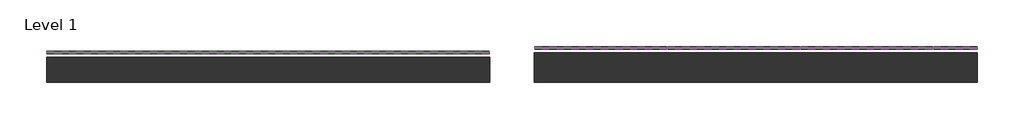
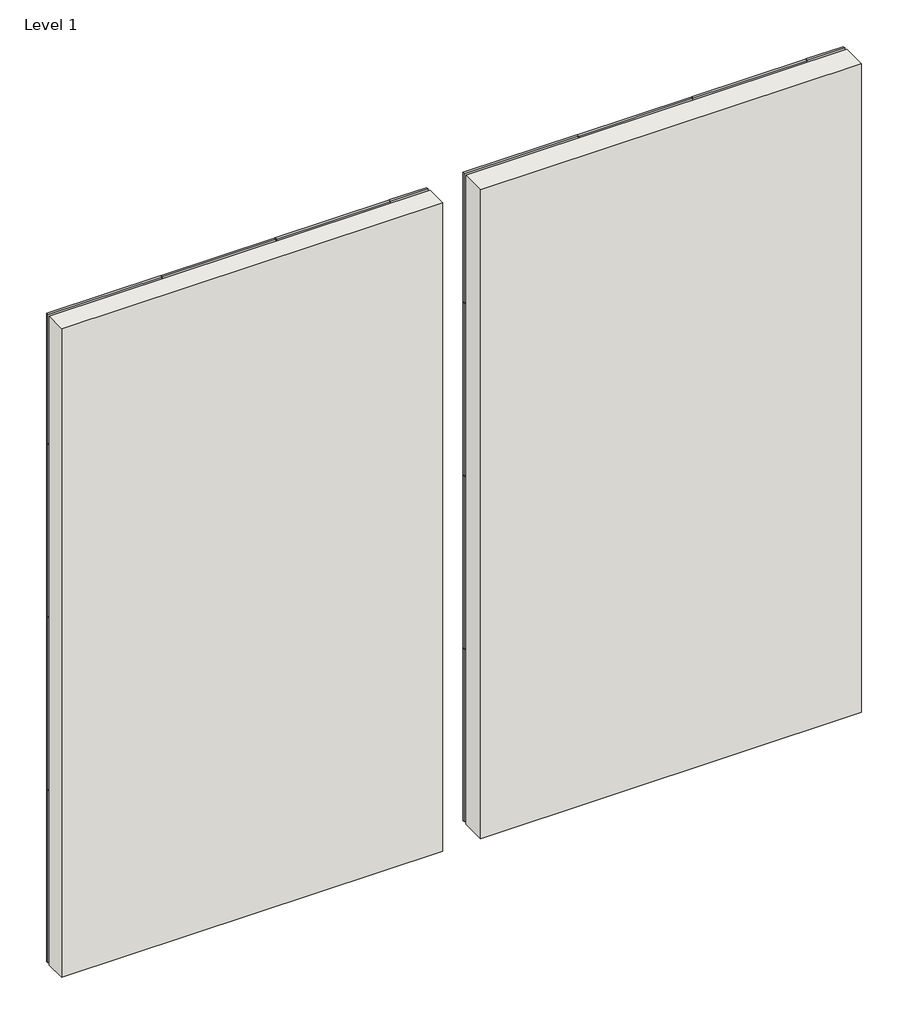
# One storey, incomplete: 32 plates, 2 walls.
"""IFC4 building model written with IfcOpenShell, lengths in millimetres."""

from ifc_helpers import new_model, si_unit, origin, origin_with_axes, place, context, project, spatial, polyline, outline, extrude, transform, mapped, element, save
from components import kws_generic_panel_kws_generic_panel_d79843ba, kws_generic_panel_kws_generic_panel_253ea42e, kws_generic_panel_kws_generic_panel_c40079bc, kws_generic_panel_kws_generic_panel_fbc156a4

model = new_model("IFC4")

# Units and contexts
model_context = context("Model", 3, world=origin())
ifc_project = project(units=[si_unit("LENGTHUNIT", "METRE", prefix="MILLI")], contexts=[model_context])

# Site, building, storey
site = spatial("IfcSite", under=ifc_project)
building = spatial("IfcBuilding", under=site)
storey = spatial("IfcBuildingStorey", under=building, Name="Level 1", Elevation=0.0)

# Plates
placement = place(None, origin())
kws_generic_panel_kws_generic_panel_shape = kws_generic_panel_kws_generic_panel_d79843ba(model_context)
element("IfcPlate", 1, ObjectType="KWS_Generic-Panel : KWS_Generic-Panel", at=placement, inside=storey, context=model_context, shape_type="MappedRepresentation", body=[
    mapped(kws_generic_panel_kws_generic_panel_shape, transform((2093.9764741, 7373.7586092, 0.0), x_axis=(1.0, 0.0, 0.0), y_axis=(0.0, 1.0, 0.0), z_axis=(0.0, 0.0, 1.0))),
])
element("IfcPlate", 2, ObjectType="KWS_Generic-Panel : KWS_Generic-Panel", at=placement, inside=storey, context=model_context, shape_type="MappedRepresentation", body=[
    mapped(kws_generic_panel_kws_generic_panel_shape, transform((3617.9764743, 7373.7586092, 0.0), x_axis=(1.0, 0.0, 0.0), y_axis=(0.0, 1.0, 0.0), z_axis=(0.0, 0.0, 1.0))),
])
element("IfcPlate", 3, ObjectType="KWS_Generic-Panel : KWS_Generic-Panel", at=placement, inside=storey, context=model_context, shape_type="MappedRepresentation", body=[
    mapped(kws_generic_panel_kws_generic_panel_shape, transform((5141.9764743, 7373.7586092, 0.0), x_axis=(1.0, 0.0, 0.0), y_axis=(0.0, 1.0, 0.0), z_axis=(0.0, 0.0, 1.0))),
])
element("IfcPlate", 4, ObjectType="KWS_Generic-Panel : KWS_Generic-Panel", at=placement, inside=storey, context=model_context, shape_type="MappedRepresentation", body=[
    mapped(kws_generic_panel_kws_generic_panel_shape, transform((2093.9764741, 7373.7586092, 2438.4), x_axis=(1.0, 0.0, 0.0), y_axis=(0.0, 1.0, 0.0), z_axis=(0.0, 0.0, 1.0))),
])
element("IfcPlate", 5, ObjectType="KWS_Generic-Panel : KWS_Generic-Panel", at=placement, inside=storey, context=model_context, shape_type="MappedRepresentation", body=[
    mapped(kws_generic_panel_kws_generic_panel_shape, transform((3617.9764743, 7373.7586092, 2438.4), x_axis=(1.0, 0.0, 0.0), y_axis=(0.0, 1.0, 0.0), z_axis=(0.0, 0.0, 1.0))),
])
element("IfcPlate", 6, ObjectType="KWS_Generic-Panel : KWS_Generic-Panel", at=placement, inside=storey, context=model_context, shape_type="MappedRepresentation", body=[
    mapped(kws_generic_panel_kws_generic_panel_shape, transform((5141.9764743, 7373.7586092, 2438.4), x_axis=(1.0, 0.0, 0.0), y_axis=(0.0, 1.0, 0.0), z_axis=(0.0, 0.0, 1.0))),
])
element("IfcPlate", 7, ObjectType="KWS_Generic-Panel : KWS_Generic-Panel", at=placement, inside=storey, context=model_context, shape_type="MappedRepresentation", body=[
    mapped(kws_generic_panel_kws_generic_panel_shape, transform((2093.9764741, 7373.7586092, 4876.8), x_axis=(1.0, 0.0, 0.0), y_axis=(0.0, 1.0, 0.0), z_axis=(0.0, 0.0, 1.0))),
])
element("IfcPlate", 8, ObjectType="KWS_Generic-Panel : KWS_Generic-Panel", at=placement, inside=storey, context=model_context, shape_type="MappedRepresentation", body=[
    mapped(kws_generic_panel_kws_generic_panel_shape, transform((3617.9764743, 7373.7586092, 4876.8), x_axis=(1.0, 0.0, 0.0), y_axis=(0.0, 1.0, 0.0), z_axis=(0.0, 0.0, 1.0))),
])
element("IfcPlate", 9, ObjectType="KWS_Generic-Panel : KWS_Generic-Panel", at=placement, inside=storey, context=model_context, shape_type="MappedRepresentation", body=[
    mapped(kws_generic_panel_kws_generic_panel_shape, transform((5141.9764743, 7373.7586092, 4876.8), x_axis=(1.0, 0.0, 0.0), y_axis=(0.0, 1.0, 0.0), z_axis=(0.0, 0.0, 1.0))),
])
element("IfcPlate", 10, ObjectType="KWS_Generic-Panel : KWS_Generic-Panel", at=placement, inside=storey, context=model_context, shape_type="MappedRepresentation", body=[
    mapped(kws_generic_panel_kws_generic_panel_shape, transform((7681.9764741, 7424.5586092, 0.0), x_axis=(1.0, 0.0, 0.0), y_axis=(0.0, 1.0, 0.0), z_axis=(0.0, 0.0, 1.0))),
])
element("IfcPlate", 11, ObjectType="KWS_Generic-Panel : KWS_Generic-Panel", at=placement, inside=storey, context=model_context, shape_type="MappedRepresentation", body=[
    mapped(kws_generic_panel_kws_generic_panel_shape, transform((9205.9764743, 7424.5586092, 0.0), x_axis=(1.0, 0.0, 0.0), y_axis=(0.0, 1.0, 0.0), z_axis=(0.0, 0.0, 1.0))),
])
element("IfcPlate", 12, ObjectType="KWS_Generic-Panel : KWS_Generic-Panel", at=placement, inside=storey, context=model_context, shape_type="MappedRepresentation", body=[
    mapped(kws_generic_panel_kws_generic_panel_shape, transform((10729.9764743, 7424.5586092, 0.0), x_axis=(1.0, 0.0, 0.0), y_axis=(0.0, 1.0, 0.0), z_axis=(0.0, 0.0, 1.0))),
])
element("IfcPlate", 13, ObjectType="KWS_Generic-Panel : KWS_Generic-Panel", at=placement, inside=storey, context=model_context, shape_type="MappedRepresentation", body=[
    mapped(kws_generic_panel_kws_generic_panel_shape, transform((7681.9764741, 7424.5586092, 2438.4), x_axis=(1.0, 0.0, 0.0), y_axis=(0.0, 1.0, 0.0), z_axis=(0.0, 0.0, 1.0))),
])
element("IfcPlate", 14, ObjectType="KWS_Generic-Panel : KWS_Generic-Panel", at=placement, inside=storey, context=model_context, shape_type="MappedRepresentation", body=[
    mapped(kws_generic_panel_kws_generic_panel_shape, transform((9205.9764743, 7424.5586092, 2438.4), x_axis=(1.0, 0.0, 0.0), y_axis=(0.0, 1.0, 0.0), z_axis=(0.0, 0.0, 1.0))),
])
element("IfcPlate", 15, ObjectType="KWS_Generic-Panel : KWS_Generic-Panel", at=placement, inside=storey, context=model_context, shape_type="MappedRepresentation", body=[
    mapped(kws_generic_panel_kws_generic_panel_shape, transform((10729.9764743, 7424.5586092, 2438.4), x_axis=(1.0, 0.0, 0.0), y_axis=(0.0, 1.0, 0.0), z_axis=(0.0, 0.0, 1.0))),
])
element("IfcPlate", 16, ObjectType="KWS_Generic-Panel : KWS_Generic-Panel", at=placement, inside=storey, context=model_context, shape_type="MappedRepresentation", body=[
    mapped(kws_generic_panel_kws_generic_panel_shape, transform((7681.9764741, 7424.5586092, 4876.8), x_axis=(1.0, 0.0, 0.0), y_axis=(0.0, 1.0, 0.0), z_axis=(0.0, 0.0, 1.0))),
])
element("IfcPlate", 17, ObjectType="KWS_Generic-Panel : KWS_Generic-Panel", at=placement, inside=storey, context=model_context, shape_type="MappedRepresentation", body=[
    mapped(kws_generic_panel_kws_generic_panel_shape, transform((9205.9764743, 7424.5586092, 4876.8), x_axis=(1.0, 0.0, 0.0), y_axis=(0.0, 1.0, 0.0), z_axis=(0.0, 0.0, 1.0))),
])
element("IfcPlate", 18, ObjectType="KWS_Generic-Panel : KWS_Generic-Panel", at=placement, inside=storey, context=model_context, shape_type="MappedRepresentation", body=[
    mapped(kws_generic_panel_kws_generic_panel_shape, transform((10729.9764743, 7424.5586092, 4876.8), x_axis=(1.0, 0.0, 0.0), y_axis=(0.0, 1.0, 0.0), z_axis=(0.0, 0.0, 1.0))),
])
kws_generic_panel_kws_generic_panel_2_shape = kws_generic_panel_kws_generic_panel_253ea42e(model_context)
element("IfcPlate", 19, ObjectType="KWS_Generic-Panel : KWS_Generic-Panel", at=placement, inside=storey, context=model_context, shape_type="MappedRepresentation", body=[
    mapped(kws_generic_panel_kws_generic_panel_2_shape, transform((6157.9764741, 7373.7586092, 0.0), x_axis=(1.0, 0.0, 0.0), y_axis=(0.0, 1.0, 0.0), z_axis=(0.0, 0.0, 1.0))),
])
element("IfcPlate", 20, ObjectType="KWS_Generic-Panel : KWS_Generic-Panel", at=placement, inside=storey, context=model_context, shape_type="MappedRepresentation", body=[
    mapped(kws_generic_panel_kws_generic_panel_2_shape, transform((6157.9764741, 7373.7586092, 2438.4), x_axis=(1.0, 0.0, 0.0), y_axis=(0.0, 1.0, 0.0), z_axis=(0.0, 0.0, 1.0))),
])
element("IfcPlate", 21, ObjectType="KWS_Generic-Panel : KWS_Generic-Panel", at=placement, inside=storey, context=model_context, shape_type="MappedRepresentation", body=[
    mapped(kws_generic_panel_kws_generic_panel_2_shape, transform((6157.9764741, 7373.7586092, 4876.8), x_axis=(1.0, 0.0, 0.0), y_axis=(0.0, 1.0, 0.0), z_axis=(0.0, 0.0, 1.0))),
])
element("IfcPlate", 22, ObjectType="KWS_Generic-Panel : KWS_Generic-Panel", at=placement, inside=storey, context=model_context, shape_type="MappedRepresentation", body=[
    mapped(kws_generic_panel_kws_generic_panel_2_shape, transform((11745.9764741, 7424.5586092, 0.0), x_axis=(1.0, 0.0, 0.0), y_axis=(0.0, 1.0, 0.0), z_axis=(0.0, 0.0, 1.0))),
])
element("IfcPlate", 23, ObjectType="KWS_Generic-Panel : KWS_Generic-Panel", at=placement, inside=storey, context=model_context, shape_type="MappedRepresentation", body=[
    mapped(kws_generic_panel_kws_generic_panel_2_shape, transform((11745.9764741, 7424.5586092, 2438.4), x_axis=(1.0, 0.0, 0.0), y_axis=(0.0, 1.0, 0.0), z_axis=(0.0, 0.0, 1.0))),
])
element("IfcPlate", 24, ObjectType="KWS_Generic-Panel : KWS_Generic-Panel", at=placement, inside=storey, context=model_context, shape_type="MappedRepresentation", body=[
    mapped(kws_generic_panel_kws_generic_panel_2_shape, transform((11745.9764741, 7424.5586092, 4876.8), x_axis=(1.0, 0.0, 0.0), y_axis=(0.0, 1.0, 0.0), z_axis=(0.0, 0.0, 1.0))),
])
kws_generic_panel_kws_generic_panel_3_shape = kws_generic_panel_kws_generic_panel_c40079bc(model_context)
element("IfcPlate", 25, ObjectType="KWS_Generic-Panel : KWS_Generic-Panel", at=placement, inside=storey, context=model_context, shape_type="MappedRepresentation", body=[
    mapped(kws_generic_panel_kws_generic_panel_3_shape, transform((2093.9764741, 7373.7586092, 7315.2), x_axis=(1.0, 0.0, 0.0), y_axis=(0.0, 1.0, 0.0), z_axis=(0.0, 0.0, 1.0))),
])
element("IfcPlate", 26, ObjectType="KWS_Generic-Panel : KWS_Generic-Panel", at=placement, inside=storey, context=model_context, shape_type="MappedRepresentation", body=[
    mapped(kws_generic_panel_kws_generic_panel_3_shape, transform((3617.9764743, 7373.7586092, 7315.2), x_axis=(1.0, 0.0, 0.0), y_axis=(0.0, 1.0, 0.0), z_axis=(0.0, 0.0, 1.0))),
])
element("IfcPlate", 27, ObjectType="KWS_Generic-Panel : KWS_Generic-Panel", at=placement, inside=storey, context=model_context, shape_type="MappedRepresentation", body=[
    mapped(kws_generic_panel_kws_generic_panel_3_shape, transform((5141.9764743, 7373.7586092, 7315.2), x_axis=(1.0, 0.0, 0.0), y_axis=(0.0, 1.0, 0.0), z_axis=(0.0, 0.0, 1.0))),
])
element("IfcPlate", 28, ObjectType="KWS_Generic-Panel : KWS_Generic-Panel", at=placement, inside=storey, context=model_context, shape_type="MappedRepresentation", body=[
    mapped(kws_generic_panel_kws_generic_panel_3_shape, transform((7681.9764741, 7424.5586092, 7315.2), x_axis=(1.0, 0.0, 0.0), y_axis=(0.0, 1.0, 0.0), z_axis=(0.0, 0.0, 1.0))),
])
element("IfcPlate", 29, ObjectType="KWS_Generic-Panel : KWS_Generic-Panel", at=placement, inside=storey, context=model_context, shape_type="MappedRepresentation", body=[
    mapped(kws_generic_panel_kws_generic_panel_3_shape, transform((9205.9764743, 7424.5586092, 7315.2), x_axis=(1.0, 0.0, 0.0), y_axis=(0.0, 1.0, 0.0), z_axis=(0.0, 0.0, 1.0))),
])
element("IfcPlate", 30, ObjectType="KWS_Generic-Panel : KWS_Generic-Panel", at=placement, inside=storey, context=model_context, shape_type="MappedRepresentation", body=[
    mapped(kws_generic_panel_kws_generic_panel_3_shape, transform((10729.9764743, 7424.5586092, 7315.2), x_axis=(1.0, 0.0, 0.0), y_axis=(0.0, 1.0, 0.0), z_axis=(0.0, 0.0, 1.0))),
])
kws_generic_panel_kws_generic_panel_4_shape = kws_generic_panel_kws_generic_panel_fbc156a4(model_context)
element("IfcPlate", 31, ObjectType="KWS_Generic-Panel : KWS_Generic-Panel", at=placement, inside=storey, context=model_context, shape_type="MappedRepresentation", body=[
    mapped(kws_generic_panel_kws_generic_panel_4_shape, transform((6157.9764741, 7373.7586092, 7315.2), x_axis=(1.0, 0.0, 0.0), y_axis=(0.0, 1.0, 0.0), z_axis=(0.0, 0.0, 1.0))),
])
element("IfcPlate", 32, ObjectType="KWS_Generic-Panel : KWS_Generic-Panel", at=placement, inside=storey, context=model_context, shape_type="MappedRepresentation", body=[
    mapped(kws_generic_panel_kws_generic_panel_4_shape, transform((11745.9764741, 7424.5586092, 7315.2), x_axis=(1.0, 0.0, 0.0), y_axis=(0.0, 1.0, 0.0), z_axis=(0.0, 0.0, 1.0))),
])

# Walls
element("IfcWall", 33, ObjectType="Exterior - Backup Wall System - Concrete Block", at=placement, inside=storey, context=model_context, shape_type="SweptSolid", body=[
    extrude(outline(polyline([(6411.976474, 7046.7336092), (1331.976474, 7046.7336092), (1331.976474, 7335.6586092), (6411.976474, 7335.6586092), (6411.976474, 7046.7336092)])), origin_with_axes(), (0.0, 0.0, 1.0), 9144.0),
])
element("IfcWall", 34, ObjectType="Exterior - Backup Wall System - Concrete Block 2", at=placement, inside=storey, context=model_context, shape_type="SweptSolid", body=[
    extrude(outline(polyline([(11999.976474, 7046.7336092), (6919.976474, 7046.7336092), (6919.976474, 7386.4586092), (11999.976474, 7386.4586092), (11999.976474, 7046.7336092)])), origin_with_axes(), (0.0, 0.0, 1.0), 9144.0),
])

save(model, "model.ifc")
